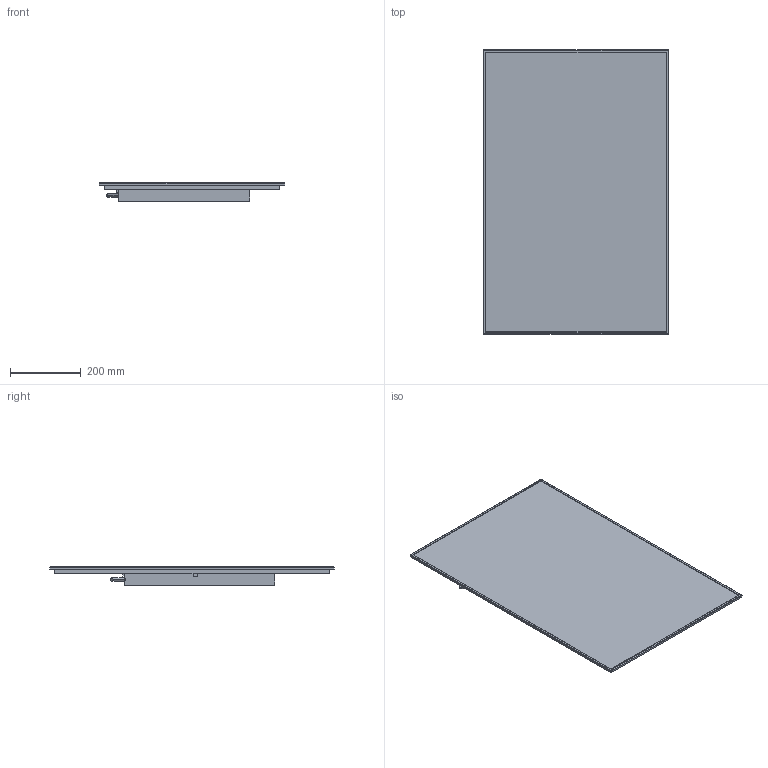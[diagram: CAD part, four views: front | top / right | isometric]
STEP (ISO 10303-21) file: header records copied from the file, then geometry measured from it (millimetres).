
FILE_DESCRIPTION(/* description */ (''),/* implementation_level */ '2;1');
FILE_NAME(/* name */ '26635752N_KM6357_EDST',/* time_stamp */ '2015-03-26T19:24:34+01:00',/* author */ (''),/* organization */ (''),/* preprocessor_version */ 'ST-DEVELOPER v10',/* originating_system */ '',/* authorisation */ '');
FILE_SCHEMA (('AUTOMOTIVE_DESIGN_CC2'));
Length unit declared in the file: millimetre
Products named in the file (1): 1
Bounding box: 526.01 x 806 x 51.89 mm (x, y, z)
Volume: 12340131.4 mm3; surface area: 2053250 mm2
Topology: 6 solids, 6 shells, 63 faces, 134 edges, 80 vertices
Faces by surface type: bspline 63
Entity records: 4300 total; most frequent: CARTESIAN_POINT 3452, ORIENTED_EDGE 260, EDGE_CURVE 130, VERTEX_POINT 80, B_SPLINE_CURVE_WITH_KNOTS 67, EDGE_LOOP 64, ADVANCED_FACE 63, FACE_OUTER_BOUND 63
